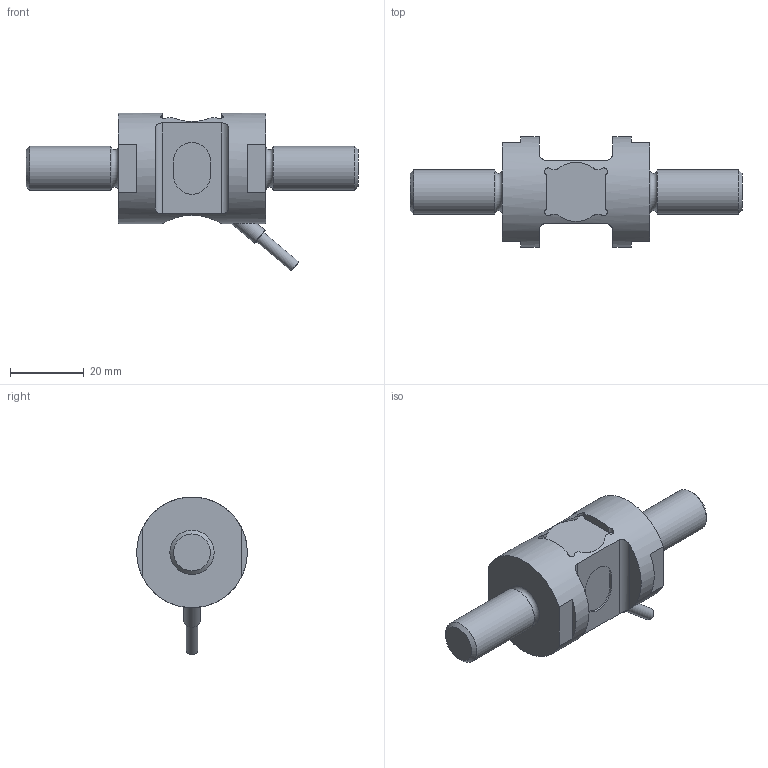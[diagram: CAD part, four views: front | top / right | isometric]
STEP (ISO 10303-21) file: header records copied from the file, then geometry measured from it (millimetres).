
FILE_DESCRIPTION(/* description */ ('Alibre Inc.'),/* implementation_level */ '2;1');
FILE_NAME(/* name */ 'export0',/* time_stamp */ '2015-02-16T09:26:45+01:00',/* author */ (''),/* organization */ (''),/* preprocessor_version */ 'ST-DEVELOPER v14',/* originating_system */ 'Alibre',/* authorisation */ '');
FILE_SCHEMA (('CONFIG_CONTROL_DESIGN'));
Length unit declared in the file: centimetre
Products named in the file (4): ID_1; ID_2; ID_3
Bounding box: 90 x 30 x 42.81 mm (x, y, z)
Volume: 28484.2 mm3; surface area: 7859.6 mm2
Topology: 2 solids, 2 shells, 68 faces, 152 edges, 97 vertices
Faces by surface type: plane 35, cylinder 29, cone 2, torus 2
Full cylindrical faces by diameter (mm): 3.2 x1, 4.5 x2, 12 x2, 30 x1
Entity records: 2620 total; most frequent: CARTESIAN_POINT 854, ORIENTED_EDGE 276, DIRECTION 251, EDGE_CURVE 138, AXIS2_PLACEMENT_3D 110, VERTEX_POINT 94, EDGE_LOOP 88, FACE_BOUND 88
